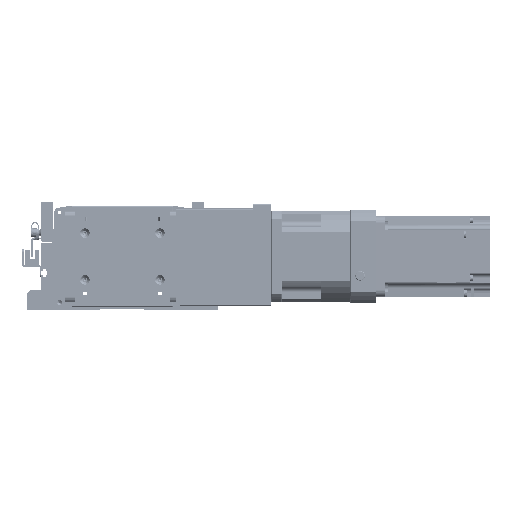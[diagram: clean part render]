
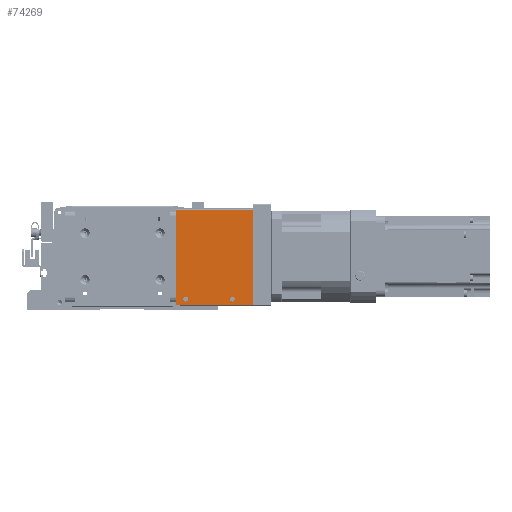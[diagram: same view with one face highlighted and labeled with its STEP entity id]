
A CAD part, front view. The second image highlights one B-rep face of the part: STEP entity #74269.
In plain terms, the highlighted planar face has unit normal (0, -1, 0) as drawn and (1, 0, 0) by its records, which use the part's own axes.
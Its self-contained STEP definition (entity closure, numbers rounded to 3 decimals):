
#2489=FACE_BOUND('',#13931,.T.);
#2490=FACE_BOUND('',#13932,.T.);
#4421=PLANE('',#81206);
#9373=FACE_OUTER_BOUND('',#13930,.T.);
#13930=EDGE_LOOP('',(#64541,#64542,#64543,#64544,#64545,#64546));
#13931=EDGE_LOOP('',(#64547));
#13932=EDGE_LOOP('',(#64548));
#20529=LINE('',#122973,#27218);
#20535=LINE('',#122990,#27224);
#20551=LINE('',#123036,#27240);
#20552=LINE('',#123038,#27241);
#27218=VECTOR('',#98737,10.);
#27224=VECTOR('',#98753,10.);
#27240=VECTOR('',#98805,10.);
#27241=VECTOR('',#98808,10.);
#30808=CIRCLE('',#81170,2.5);
#30810=CIRCLE('',#81173,2.5);
#30812=CIRCLE('',#81176,1.);
#30819=CIRCLE('',#81186,1.);
#37063=VERTEX_POINT('',#122932);
#37065=VERTEX_POINT('',#122938);
#37067=VERTEX_POINT('',#122944);
#37068=VERTEX_POINT('',#122945);
#37080=VERTEX_POINT('',#122971);
#37084=VERTEX_POINT('',#122983);
#37085=VERTEX_POINT('',#122984);
#37086=VERTEX_POINT('',#122989);
#46529=EDGE_CURVE('',#37063,#37063,#30808,.T.);
#46532=EDGE_CURVE('',#37065,#37065,#30810,.T.);
#46535=EDGE_CURVE('',#37067,#37068,#30812,.T.);
#46549=EDGE_CURVE('',#37080,#37067,#20529,.T.);
#46554=EDGE_CURVE('',#37084,#37085,#30819,.T.);
#46557=EDGE_CURVE('',#37085,#37086,#20535,.T.);
#46581=EDGE_CURVE('',#37086,#37080,#20551,.T.);
#46582=EDGE_CURVE('',#37084,#37068,#20552,.T.);
#64541=ORIENTED_EDGE('',*,*,#46535,.F.);
#64542=ORIENTED_EDGE('',*,*,#46549,.F.);
#64543=ORIENTED_EDGE('',*,*,#46581,.F.);
#64544=ORIENTED_EDGE('',*,*,#46557,.F.);
#64545=ORIENTED_EDGE('',*,*,#46554,.F.);
#64546=ORIENTED_EDGE('',*,*,#46582,.T.);
#64547=ORIENTED_EDGE('',*,*,#46529,.T.);
#64548=ORIENTED_EDGE('',*,*,#46532,.T.);
#74269=ADVANCED_FACE('',(#9373,#2489,#2490),#4421,.T.);
#81170=AXIS2_PLACEMENT_3D('',#122933,#98701,#98702);
#81173=AXIS2_PLACEMENT_3D('',#122939,#98708,#98709);
#81176=AXIS2_PLACEMENT_3D('',#122946,#98715,#98716);
#81186=AXIS2_PLACEMENT_3D('',#122985,#98747,#98748);
#81206=AXIS2_PLACEMENT_3D('',#123037,#98806,#98807);
#98701=DIRECTION('center_axis',(-1.,0.,0.));
#98702=DIRECTION('ref_axis',(0.,0.,-1.));
#98708=DIRECTION('center_axis',(-1.,0.,0.));
#98709=DIRECTION('ref_axis',(0.,0.,-1.));
#98715=DIRECTION('center_axis',(-1.,0.,0.));
#98716=DIRECTION('ref_axis',(0.,-0.707,-0.707));
#98737=DIRECTION('',(0.,-1.,0.));
#98747=DIRECTION('center_axis',(-1.,0.,0.));
#98748=DIRECTION('ref_axis',(0.,-0.707,0.707));
#98753=DIRECTION('',(0.,1.,0.));
#98805=DIRECTION('',(0.,0.,-1.));
#98806=DIRECTION('center_axis',(1.,0.,0.));
#98807=DIRECTION('ref_axis',(0.,1.,0.));
#98808=DIRECTION('',(0.,0.,-1.));
#122932=CARTESIAN_POINT('',(49.,-41.75,30.5));
#122933=CARTESIAN_POINT('Origin',(49.,-41.75,28.));
#122938=CARTESIAN_POINT('',(49.,-41.75,-15.5));
#122939=CARTESIAN_POINT('Origin',(49.,-41.75,-18.));
#122944=CARTESIAN_POINT('',(49.,-46.75,-38.));
#122945=CARTESIAN_POINT('',(49.,-47.75,-37.));
#122946=CARTESIAN_POINT('Origin',(49.,-46.75,-37.));
#122971=CARTESIAN_POINT('',(49.,45.75,-38.));
#122973=CARTESIAN_POINT('',(49.,47.75,-38.));
#122983=CARTESIAN_POINT('',(49.,-47.75,37.));
#122984=CARTESIAN_POINT('',(49.,-46.75,38.));
#122985=CARTESIAN_POINT('Origin',(49.,-46.75,37.));
#122989=CARTESIAN_POINT('',(49.,45.75,38.));
#122990=CARTESIAN_POINT('',(49.,47.75,38.));
#123036=CARTESIAN_POINT('',(49.,45.75,0.));
#123037=CARTESIAN_POINT('Origin',(49.,-47.75,0.));
#123038=CARTESIAN_POINT('',(49.,-47.75,0.));
